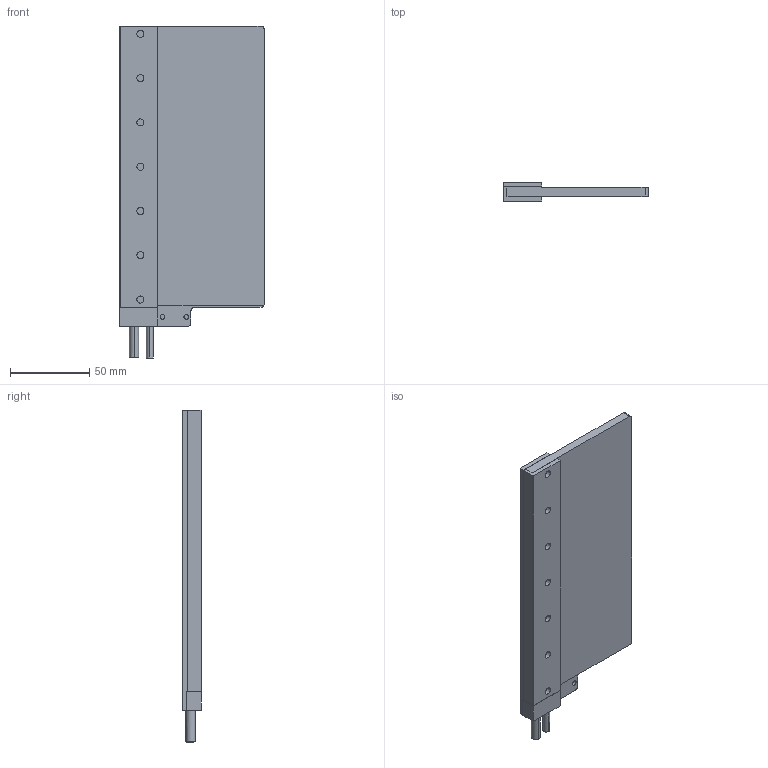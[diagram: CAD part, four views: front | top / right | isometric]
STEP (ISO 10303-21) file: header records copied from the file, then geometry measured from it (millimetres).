
FILE_DESCRIPTION (( 'STEP AP203' ), '1' );
FILE_NAME ('IL6-91 assembly 3D.STEP', '2018-10-06T08:56:34', ( '' ), ( '' ), 'SwSTEP 2.0', 'SolidWorks 2018', '' );
FILE_SCHEMA (( 'CONFIG_CONTROL_DESIGN' ));
Length unit declared in the file: millimetre
Products named in the file (1): IL6-91 assembly 3D
Bounding box: 91.3 x 12 x 210 mm (x, y, z)
Volume: 121062.8 mm3; surface area: 59991.3 mm2
Topology: 3 solids, 3 shells, 163 faces, 440 edges, 281 vertices
Faces by surface type: cylinder 89, plane 54, cone 20
Entity records: 5362 total; most frequent: CARTESIAN_POINT 1012, DIRECTION 929, ORIENTED_EDGE 864, EDGE_CURVE 432, AXIS2_PLACEMENT_3D 346, VERTEX_POINT 281, VECTOR 237, LINE 237
